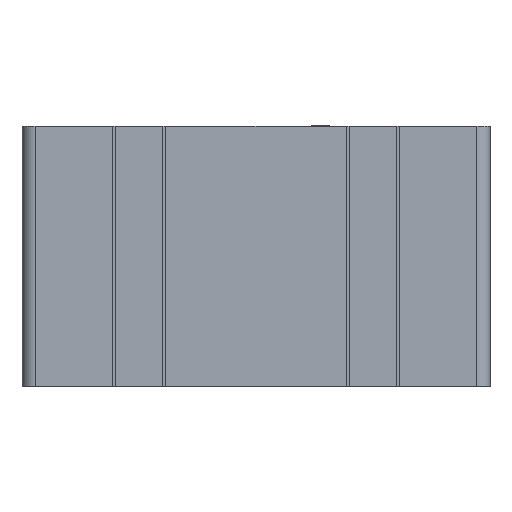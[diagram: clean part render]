
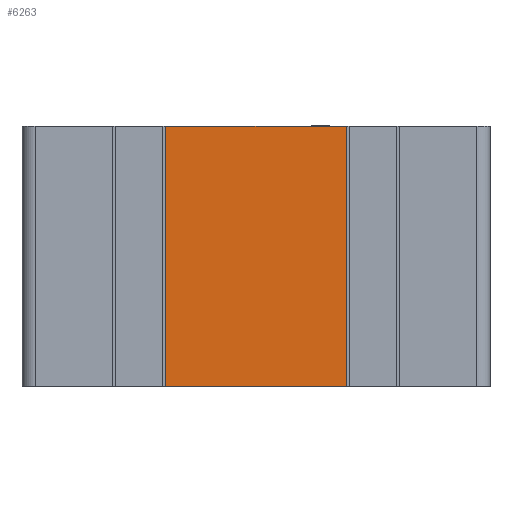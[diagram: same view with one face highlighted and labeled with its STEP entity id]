
A CAD part, left-side view. The second image highlights one B-rep face of the part: STEP entity #6263.
In plain terms, the highlighted planar face has unit normal (-1, 0, 0).
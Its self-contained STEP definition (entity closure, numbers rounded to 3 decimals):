
#551 = VERTEX_POINT ( 'NONE', #5257 ) ;
#595 = LINE ( 'NONE', #8707, #7152 ) ;
#814 = DIRECTION ( 'NONE',  ( 0., -1., 0. ) ) ;
#933 = AXIS2_PLACEMENT_3D ( 'NONE', #4750, #5739, #12822 ) ;
#1065 = CARTESIAN_POINT ( 'NONE',  ( 331.866, 93.019, 0. ) ) ;
#2024 = EDGE_LOOP ( 'NONE', ( #3236, #11059, #12909, #9027 ) ) ;
#2488 = EDGE_CURVE ( 'NONE', #551, #8277, #595, .T. ) ;
#2534 = CARTESIAN_POINT ( 'NONE',  ( 331.866, 58.219, 0. ) ) ;
#2994 = VECTOR ( 'NONE', #8442, 1000. ) ;
#3236 = ORIENTED_EDGE ( 'NONE', *, *, #12282, .T. ) ;
#3262 = VECTOR ( 'NONE', #9060, 1000. ) ;
#4482 = CARTESIAN_POINT ( 'NONE',  ( 331.866, 58.219, 50. ) ) ;
#4671 = VECTOR ( 'NONE', #814, 1000. ) ;
#4737 = DIRECTION ( 'NONE',  ( 0., -1., 0. ) ) ;
#4750 = CARTESIAN_POINT ( 'NONE',  ( 331.866, 75.619, 0. ) ) ;
#5203 = EDGE_CURVE ( 'NONE', #11061, #8316, #11886, .T. ) ;
#5257 = CARTESIAN_POINT ( 'NONE',  ( 331.866, 93.019, 50. ) ) ;
#5462 = EDGE_CURVE ( 'NONE', #551, #11061, #5900, .T. ) ;
#5739 = DIRECTION ( 'NONE',  ( -1., 0., 0. ) ) ;
#5900 = LINE ( 'NONE', #1065, #3262 ) ;
#6263 = ADVANCED_FACE ( 'NONE', ( #9929 ), #11881, .T. ) ;
#7152 = VECTOR ( 'NONE', #4737, 1000. ) ;
#8277 = VERTEX_POINT ( 'NONE', #4482 ) ;
#8316 = VERTEX_POINT ( 'NONE', #9471 ) ;
#8442 = DIRECTION ( 'NONE',  ( 0., 0., 1. ) ) ;
#8707 = CARTESIAN_POINT ( 'NONE',  ( 331.866, 93.019, 50. ) ) ;
#9027 = ORIENTED_EDGE ( 'NONE', *, *, #5203, .T. ) ;
#9060 = DIRECTION ( 'NONE',  ( 0., 0., -1. ) ) ;
#9471 = CARTESIAN_POINT ( 'NONE',  ( 331.866, 58.219, 0. ) ) ;
#9929 = FACE_OUTER_BOUND ( 'NONE', #2024, .T. ) ;
#10637 = CARTESIAN_POINT ( 'NONE',  ( 331.866, 93.019, 0. ) ) ;
#11059 = ORIENTED_EDGE ( 'NONE', *, *, #2488, .F. ) ;
#11061 = VERTEX_POINT ( 'NONE', #10637 ) ;
#11610 = LINE ( 'NONE', #2534, #2994 ) ;
#11803 = CARTESIAN_POINT ( 'NONE',  ( 331.866, 75.619, 0. ) ) ;
#11881 = PLANE ( 'NONE',  #933 ) ;
#11886 = LINE ( 'NONE', #11803, #4671 ) ;
#12282 = EDGE_CURVE ( 'NONE', #8316, #8277, #11610, .T. ) ;
#12822 = DIRECTION ( 'NONE',  ( 0., -1., 0. ) ) ;
#12909 = ORIENTED_EDGE ( 'NONE', *, *, #5462, .T. ) ;
